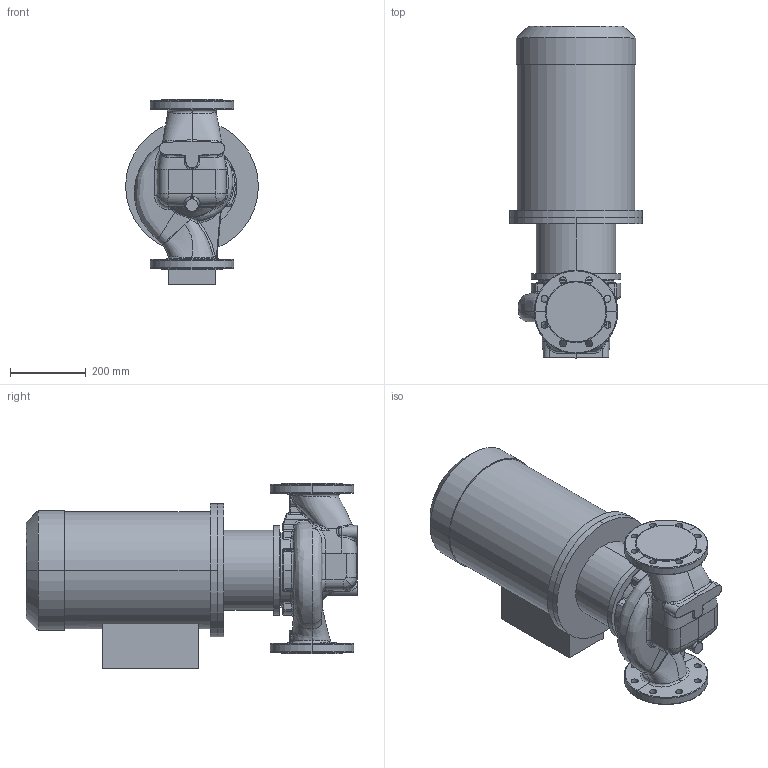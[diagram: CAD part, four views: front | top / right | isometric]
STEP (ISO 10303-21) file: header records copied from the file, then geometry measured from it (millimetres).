
FILE_DESCRIPTION (( 'STEP AP214' ), '1' );
FILE_NAME ('KRL 100-125-2-11.STEP', '2026-04-06T07:17:03', ( '' ), ( '' ), 'SwSTEP 2.0', 'SolidWorks 2016', '' );
FILE_SCHEMA (( 'AUTOMOTIVE_DESIGN' ));
Length unit declared in the file: millimetre
Products named in the file (1): KRL 100-125-2-11
Bounding box: 350 x 874.3 x 490 mm (x, y, z)
Volume: 60429424.6 mm3; surface area: 1648448.2 mm2
Topology: 4 solids, 4 shells, 556 faces, 1380 edges, 833 vertices
Faces by surface type: bspline 269, cylinder 129, plane 86, torus 30, cone 29, sphere 13
Entity records: 54706 total; most frequent: CARTESIAN_POINT 37682, ORIENTED_EDGE 2730, DIRECTION 1608, EDGE_CURVE 1365, VERTEX_POINT 833, AXIS2_PLACEMENT_3D 681, B_SPLINE_CURVE_WITH_KNOTS 662, EDGE_LOOP 604
